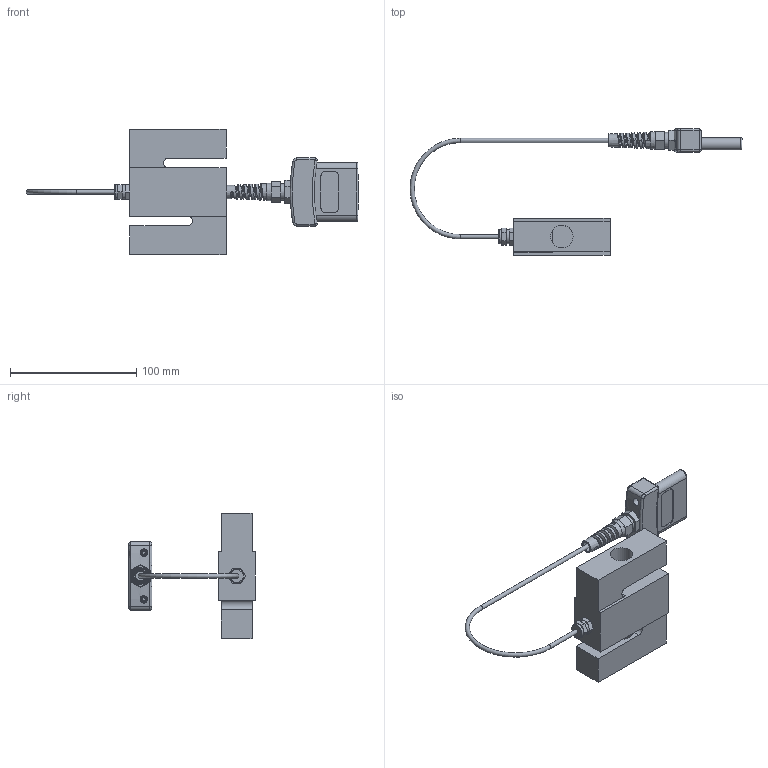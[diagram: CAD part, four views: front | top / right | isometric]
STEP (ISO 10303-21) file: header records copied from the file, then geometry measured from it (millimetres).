
FILE_DESCRIPTION((''),'2;1');
FILE_NAME('F:\CAD files\Itr\3D MARKETING MODELS\FORCE SENSORS\MR01\MR01-5000-10000.stp','2017-06-20T15:04:31',('mlampen'),(''),'Autodesk Inventor 2010','Autodesk Inventor 2010','');
FILE_SCHEMA(('AUTOMOTIVE_DESIGN { 1 0 10303 214 1 1 1 1 }'));
Length unit declared in the file: inch
Products named in the file (1): Part2
Bounding box: 262.98 x 99.95 x 99.06 mm (x, y, z)
Volume: 208367.6 mm3; surface area: 46940.1 mm2
Topology: 4 solids, 4 shells, 357 faces, 971 edges, 642 vertices
Faces by surface type: plane 141, bspline 89, cylinder 70, cone 42, torus 11, sphere 4
Full cylindrical faces by diameter (mm): 3.175 x2, 3.429 x2, 4.648 x2, 5.842 x2, 7.62 x6, 11.176 x1, 11.24 x2, 12.7 x1, 17.805 x2
Entity records: 17891 total; most frequent: CARTESIAN_POINT 10114, ORIENTED_EDGE 1816, DIRECTION 1274, EDGE_CURVE 908, VERTEX_POINT 628, AXIS2_PLACEMENT_3D 476, EDGE_LOOP 416, FACE_OUTER_BOUND 347
